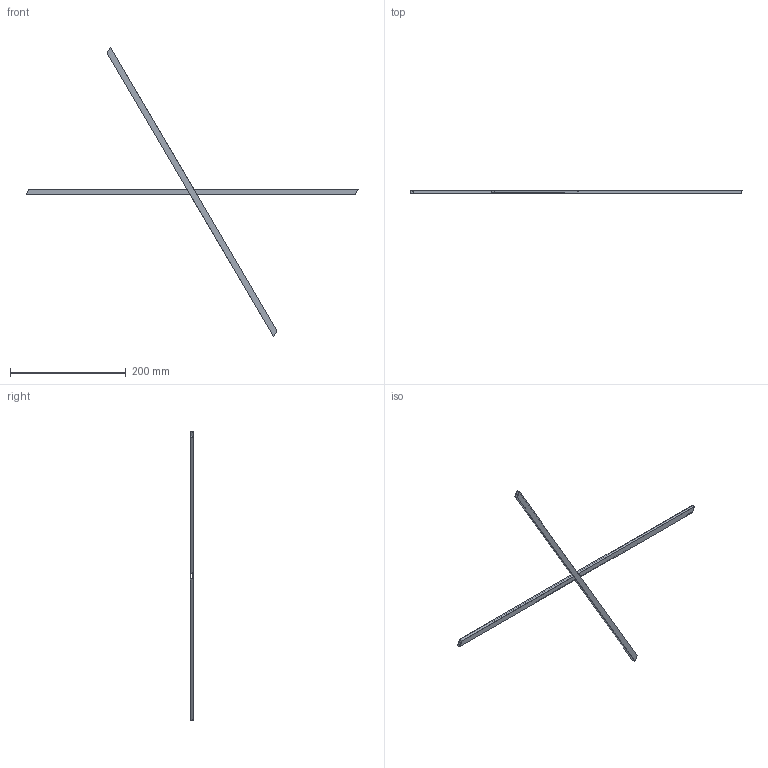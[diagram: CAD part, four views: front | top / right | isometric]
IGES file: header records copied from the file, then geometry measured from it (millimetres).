
Start section: C
Global section: file name: M173.igs; native system: By Siemens PLM Incorporated; preprocessor: XPlus GENERIC/IGES 16.0.42; author: Author; organization: Title; date: 20260104.162648; units: millimetre
Bounding box: 574 x 6 x 500.14 mm (x, y, z)
Surface area: 61456.2 mm2 (no closed solid volume)
Topology: 0 solids, 0 shells, 32 faces, 192 edges, 192 vertices
Faces by surface type: bspline 32
